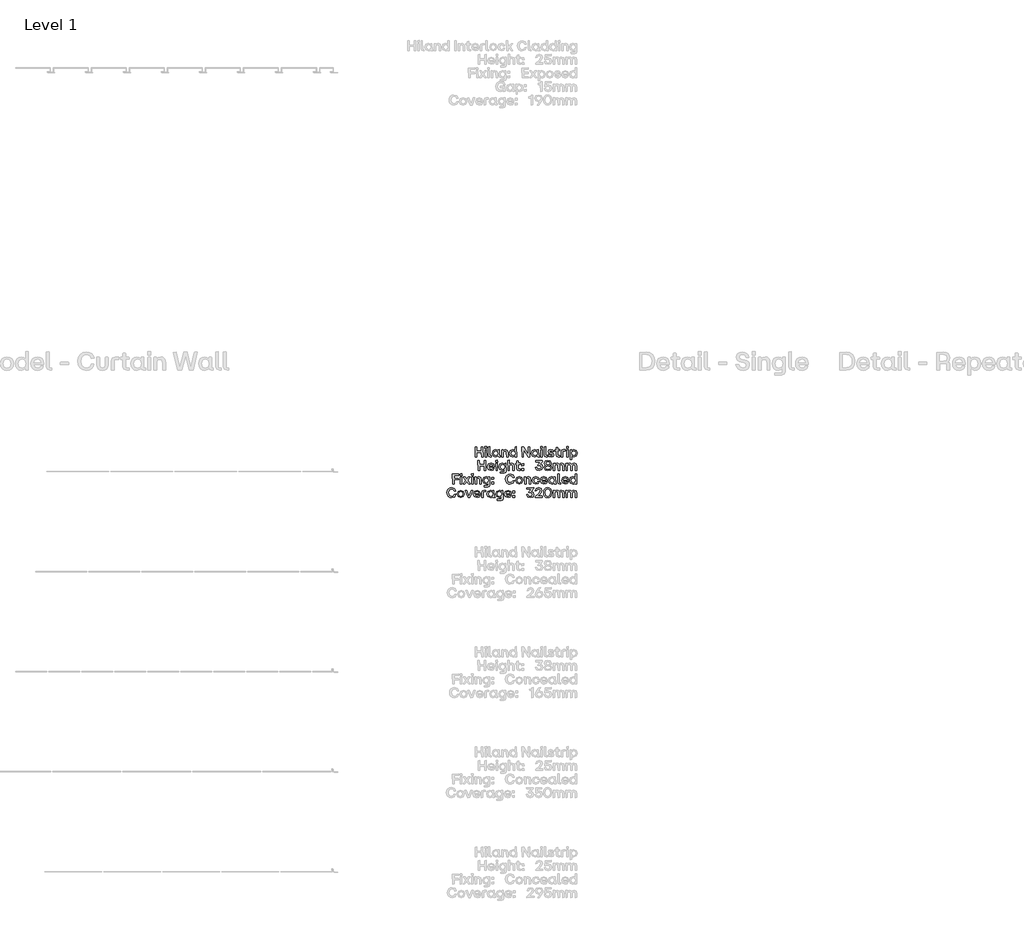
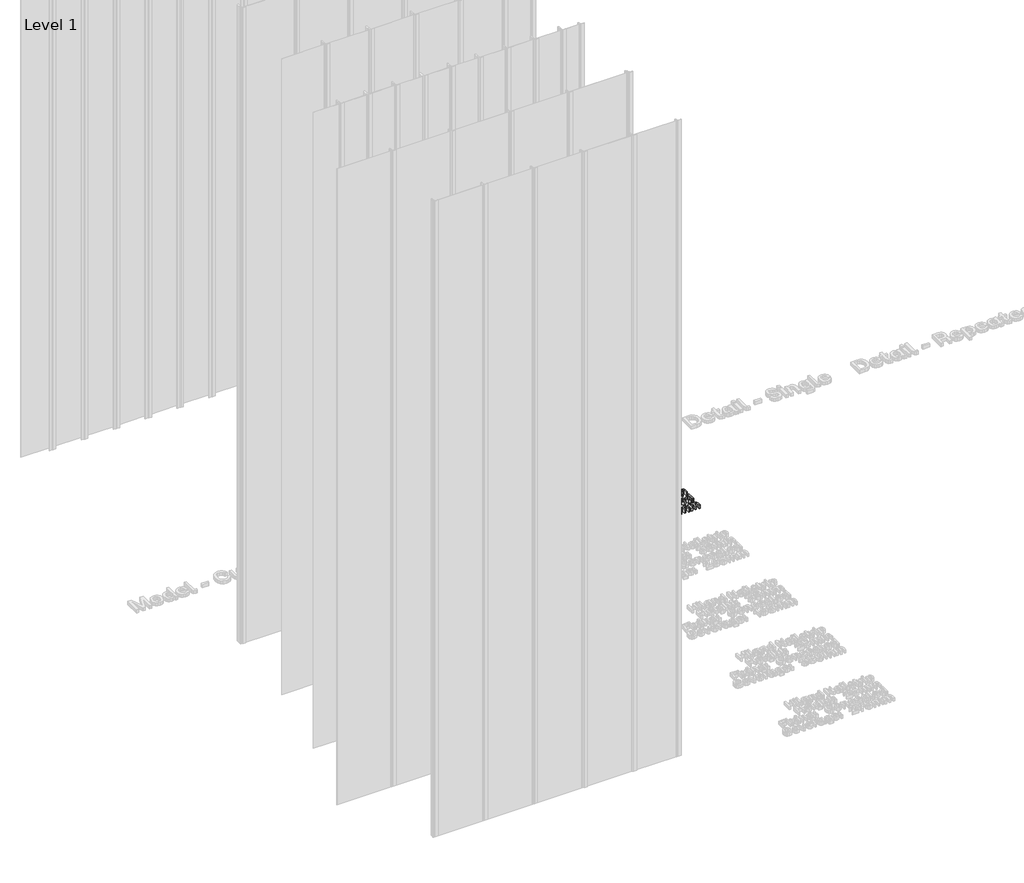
# One storey, part 29 of 64: 1 proxy.
"""IFC4 building model written with IfcOpenShell, lengths in millimetres."""

import ifcopenshell
import ifcopenshell.guid

model = None  # the IFC model being written
_history = None  # IfcOwnerHistory: only IFC2X3 demands one
_inside = {}  # id of a spatial element -> (the spatial element, [elements in it])
_under = {}  # id of a project, library or spatial element -> (it, [spatial elements below it])
_declared = {}  # id of a project -> (the project, [libraries it declares])
_typed = {}  # id of a type object -> (the type object, [elements of that type])
_made_of = {}  # id of a material, layer set ... -> (it, [elements and type objects made of it])


def new_model(schema):
    """Start an empty IFC model of exactly this schema.

    Asked for "IFC4X3", IfcOpenShell would pick the latest addendum, in which some entities
    have other attributes; the version numbers below select the first issue.
    IFC2X3 requires an IfcOwnerHistory on every rooted entity: one is made here for all.
    """
    global model, _history
    if schema == "IFC4X3":
        model = ifcopenshell.file(schema_version=(4, 3, 0, 0))
    else:
        model = ifcopenshell.file(schema=schema)
    _inside.clear()
    _under.clear()
    _declared.clear()
    _typed.clear()
    _made_of.clear()
    _history = None
    if model.schema == "IFC2X3":
        org = make("IfcOrganization", Name="unknown")
        user = make(
            "IfcPersonAndOrganization",
            ThePerson=make("IfcPerson", FamilyName="unknown"),
            TheOrganization=org,
        )
        app = make(
            "IfcApplication",
            ApplicationDeveloper=org,
            Version="unknown",
            ApplicationFullName="unknown",
            ApplicationIdentifier="unknown",
        )
        _history = make(
            "IfcOwnerHistory",
            OwningUser=user,
            OwningApplication=app,
            ChangeAction="ADDED",
            CreationDate=0,
        )
    return model


def make(cls, **values):
    """One entity of the class cls with the attributes given. An attribute that is None is left unset."""
    return model.create_entity(
        cls, **{name: value for name, value in values.items() if value is not None}
    )


def rooted(cls, **values):
    """An entity with a GlobalId (a new one), such as an element, a storey or a relation."""
    return make(cls, GlobalId=ifcopenshell.guid.new(), OwnerHistory=_history, **values)


def si_unit(unit_type, name, prefix=None):
    """IfcSIUnit, for example si_unit("LENGTHUNIT", "METRE", prefix="MILLI")."""
    return make("IfcSIUnit", UnitType=unit_type, Prefix=prefix, Name=name)


def assignment(units):
    """IfcUnitAssignment: the units of a project."""
    return None if units is None else make("IfcUnitAssignment", Units=units)


def point(xyz):
    """IfcCartesianPoint."""
    return None if xyz is None else make("IfcCartesianPoint", Coordinates=xyz)


def direction(xyz):
    """IfcDirection."""
    return None if xyz is None else make("IfcDirection", DirectionRatios=xyz)


def frame(location, z_axis=None, x_axis=None):
    """IfcAxis2Placement3D, a coordinate frame: its origin and axes. An axis left out is left unset."""
    return make(
        "IfcAxis2Placement3D",
        Location=point(location),
        Axis=direction(z_axis),
        RefDirection=direction(x_axis),
    )


def origin():
    """The frame at (0, 0, 0) with its axes left unset."""
    return frame((0.0, 0.0, 0.0))


def origin_with_axes():
    """The frame at (0, 0, 0) with the z axis (0, 0, 1) and the x axis (1, 0, 0) written out."""
    return frame((0.0, 0.0, 0.0), z_axis=(0.0, 0.0, 1.0), x_axis=(1.0, 0.0, 0.0))


def place(relative_to, where):
    """IfcLocalPlacement: puts the frame where relative to a parent placement (None: the world)."""
    return make(
        "IfcLocalPlacement", PlacementRelTo=relative_to, RelativePlacement=where
    )


def context(
    kind, dimensions, precision=None, world=None, true_north=None, identifier=None
):
    """IfcGeometricRepresentationContext, for example the 3D "Model" context."""
    return make(
        "IfcGeometricRepresentationContext",
        ContextIdentifier=identifier,
        ContextType=kind,
        CoordinateSpaceDimension=dimensions,
        Precision=precision,
        WorldCoordinateSystem=world,
        TrueNorth=true_north,
    )


def project(units=None, contexts=None):
    """IfcProject with its units and contexts."""
    return rooted(
        "IfcProject",
        Name="project",
        RepresentationContexts=contexts,
        UnitsInContext=assignment(units),
    )


def spatial(cls, under=None, at=None, **own):
    """A site, building, storey or space (cls), placed at a placement, below another one or the project."""
    s = rooted(cls, ObjectPlacement=at, **own)
    if under is not None:
        _under.setdefault(under.id(), (under, []))[1].append(s)
    return s


def polyline(points):
    """IfcPolyline through the points."""
    return make("IfcPolyline", Points=[point(p) for p in points])


def outline(outer, holes=None, kind="AREA"):
    """IfcArbitraryClosedProfileDef: a profile drawn as a closed curve; with holes, ...WithVoids."""
    if holes is None:
        return make("IfcArbitraryClosedProfileDef", ProfileType=kind, OuterCurve=outer)
    return make(
        "IfcArbitraryProfileDefWithVoids",
        ProfileType=kind,
        OuterCurve=outer,
        InnerCurves=holes,
    )


def extrude(swept, where, along, depth):
    """IfcExtrudedAreaSolid: the profile swept, set in the frame where, extruded along a direction by depth."""
    return make(
        "IfcExtrudedAreaSolid",
        SweptArea=swept,
        Position=where,
        ExtrudedDirection=direction(along),
        Depth=depth,
    )


def shape(context_of_items, identifier, shape_type, items):
    """IfcShapeRepresentation: the items that make up one representation, for example the "Body"."""
    return make(
        "IfcShapeRepresentation",
        ContextOfItems=context_of_items,
        RepresentationIdentifier=identifier,
        RepresentationType=shape_type,
        Items=items,
    )


def made_of(thing, what):
    """Note that an element or type object is made of a material, layer set ...; save() writes the relation."""
    if what is not None:
        _made_of.setdefault(what.id(), (what, []))[1].append(thing)
    return thing


def element(
    cls,
    number,
    at=None,
    inside=None,
    cuts=None,
    type_object=None,
    material=None,
    context=None,
    identifier="Body",
    shape_type=None,
    held_by="IfcProductDefinitionShape",
    body=None,
    shapes=None,
    **own,
):
    """One element of the class cls, such as IfcWall. Its Tag is "e" and its number.

    at: its placement. inside: the storey or other place that contains it. cuts: it is an
    opening in that element (IfcRelVoidsElement). A single representation is given by context,
    identifier, shape_type and body (its items); several are given by shapes. held_by: the class
    of the entity that holds the representations. save() writes the other relations.
    """
    e = rooted(cls, Tag="e%d" % number, ObjectPlacement=at, **own)
    if body is not None:
        shapes = [shape(context, identifier, shape_type, body)]
    if shapes is not None:
        e.Representation = make(held_by, Representations=shapes)
    if inside is not None:
        _inside.setdefault(inside.id(), (inside, []))[1].append(e)
    if cuts is not None:
        rooted(
            "IfcRelVoidsElement", RelatingBuildingElement=cuts, RelatedOpeningElement=e
        )
    if type_object is not None:
        _typed.setdefault(type_object.id(), (type_object, []))[1].append(e)
    return made_of(e, material)


def aggregate(whole, parts):
    """IfcRelAggregates: a whole, such as a stair, and the parts it consists of."""
    return rooted("IfcRelAggregates", RelatingObject=whole, RelatedObjects=parts)


def save(model, path):
    """Write the relations noted so far, then the file.

    IfcRelAggregates (storeys below a building ...), IfcRelContainedInSpatialStructure (elements
    in a storey), IfcRelDefinesByType, IfcRelAssociatesMaterial and IfcRelDeclares: one each for
    every whole, place, type object, material and project.
    """
    for whole, parts in _under.values():
        aggregate(whole, parts)
    for where, things in _inside.values():
        rooted(
            "IfcRelContainedInSpatialStructure",
            RelatedElements=things,
            RelatingStructure=where,
        )
    for kind, things in _typed.values():
        rooted("IfcRelDefinesByType", RelatedObjects=things, RelatingType=kind)
    for what, things in _made_of.values():
        rooted("IfcRelAssociatesMaterial", RelatedObjects=things, RelatingMaterial=what)
    for by, libraries in _declared.values():
        rooted("IfcRelDeclares", RelatingContext=by, RelatedDefinitions=libraries)
    model.write(path)


model = new_model("IFC4")

# Units and contexts
model_context = context("Model", 3, world=origin())
ifc_project = project(units=[si_unit("LENGTHUNIT", "METRE", prefix="MILLI")], contexts=[model_context])

# Site, building, storey
site = spatial("IfcSite", under=ifc_project)
building = spatial("IfcBuilding", under=site)
storey = spatial("IfcBuildingStorey", under=building, Name="Level 1", Elevation=0.0)

# Proxy
placement = place(None, origin())
element("IfcBuildingElementProxy", 1, Name="50mm", ObjectType="50mm", at=placement, inside=storey, context=model_context, shape_type="SweptSolid", body=[
    extrude(outline(polyline([(2520.0683519, -1933.5188866), (2519.3710201, -1911.5808277), (2495.5222721, -1911.5808277), (2495.5222721, -1932.8215548), (2488.0189817, -1933.5188866), (2487.2937566, -1884.2454206), (2494.7831003, -1883.5201955), (2495.5222721, -1904.6075096), (2519.3710201, -1904.6075096), (2519.3710201, -1884.2454206), (2526.8603638, -1883.5201955), (2527.5576956, -1932.8215548), (2520.0683519, -1933.5188866)])), origin_with_axes(), (0.0, 0.0, 1.0), 20.0),
    extrude(outline(polyline([(2537.6550603, -1933.5188866), (2536.9298352, -1897.8154977), (2544.1402462, -1897.1181659), (2544.837578, -1932.8215548), (2537.6550603, -1933.5188866)])), origin_with_axes(), (0.0, 0.0, 1.0), 20.0),
    extrude(outline(polyline([(2536.7206357, -1890.4516737), (2536.3719698, -1882.4044646), (2544.7678448, -1881.6652929), (2545.5070165, -1890.1030078), (2536.7206357, -1890.4516737)])), origin_with_axes(), (0.0, 0.0, 1.0), 20.0),
    extrude(outline(polyline([(2564.2373491, -1933.5188866), (2556.5388058, -1930.8690257), (2553.8889449, -1923.1565359), (2553.8889449, -1882.8228637), (2561.0993559, -1882.083692), (2561.7966877, -1927.2429003), (2568.4631799, -1927.2429003), (2569.1605117, -1932.8215548), (2564.2373491, -1933.5188866)])), origin_with_axes(), (0.0, 0.0, 1.0), 20.0),
    extrude(outline(polyline([(2589.3273478, -1933.9372857), (2577.5563867, -1928.8955767), (2573.1771429, -1915.3882594), (2577.5563867, -1901.7484491), (2589.3273478, -1896.6579269), (2595.9450267, -1898.2617901), (2600.9309491, -1902.6549805), (2601.2517218, -1897.8154977), (2608.4342395, -1897.1181659), (2609.1594646, -1927.2429003), (2613.1063626, -1927.2429003), (2613.8036944, -1932.8215548), (2607.8066408, -1933.5188866), (2603.151951, -1932.2113895), (2601.6003877, -1928.288898), (2596.2448794, -1932.3334225), (2589.3273478, -1933.9372857)]), holes=[polyline([(2581.2382987, -1915.3882594), (2583.9927594, -1924.2792401), (2591.5169696, -1927.521833), (2598.8807936, -1924.2931867), (2601.5306545, -1915.3882594), (2598.8598737, -1906.392679), (2591.5169696, -1903.1152195), (2583.9927594, -1906.392679), (2581.2382987, -1915.3882594)])]), origin_with_axes(), (0.0, 0.0, 1.0), 20.0),
    extrude(outline(polyline([(2620.6654395, -1933.5188866), (2619.9402144, -1897.8154977), (2626.8019595, -1897.1181659), (2627.4992913, -1902.6549805), (2632.6630334, -1898.1571903), (2639.2841989, -1896.6579269), (2648.8446181, -1900.8419178), (2652.1569442, -1913.0870644), (2652.1569442, -1932.8215548), (2644.9325866, -1933.5188866), (2644.2073616, -1913.0870644), (2642.2548325, -1905.7092939), (2636.0834459, -1903.3941522), (2629.8562728, -1905.7441604), (2627.8479572, -1913.0870644), (2627.8479572, -1932.8215548), (2620.6654395, -1933.5188866)])), origin_with_axes(), (0.0, 0.0, 1.0), 20.0),
    extrude(outline(polyline([(2675.0154811, -1933.9372857), (2663.2445201, -1928.8955767), (2658.8652763, -1915.3882594), (2663.2445201, -1901.7484491), (2675.0154811, -1896.6579269), (2681.63316, -1898.2617901), (2686.6190825, -1902.6549805), (2686.9398552, -1882.8228637), (2694.1223728, -1882.083692), (2694.8475979, -1932.8215548), (2687.9858529, -1933.5188866), (2687.2885211, -1928.0099653), (2681.9330127, -1932.3334225), (2675.0154811, -1933.9372857)]), holes=[polyline([(2666.9264321, -1915.3882594), (2669.6808927, -1924.2792401), (2677.205103, -1927.521833), (2684.568927, -1924.2931867), (2687.2187879, -1915.3882594), (2684.548007, -1906.392679), (2677.205103, -1903.1152195), (2669.6808927, -1906.392679), (2666.9264321, -1915.3882594)])]), origin_with_axes(), (0.0, 0.0, 1.0), 20.0),
    extrude(outline(polyline([(2721.8761791, -1933.5188866), (2721.150954, -1884.2454206), (2730.007068, -1883.5201955), (2753.2979506, -1920.7856077), (2753.5768834, -1884.2454206), (2760.7872943, -1883.5201955), (2761.4846261, -1932.8215548), (2752.670352, -1933.5188866), (2729.3794694, -1896.2395278), (2729.1005367, -1932.8215548), (2721.8761791, -1933.5188866)])), origin_with_axes(), (0.0, 0.0, 1.0), 20.0),
    extrude(outline(polyline([(2784.803402, -1933.9372857), (2773.032441, -1928.8955767), (2768.6531972, -1915.3882594), (2773.032441, -1901.7484491), (2784.803402, -1896.6579269), (2791.4210809, -1898.2617901), (2796.4070034, -1902.6549805), (2796.727776, -1897.8154977), (2803.9102937, -1897.1181659), (2804.6355188, -1927.2429003), (2808.5824169, -1927.2429003), (2809.2797487, -1932.8215548), (2803.2826951, -1933.5188866), (2798.6280052, -1932.2113895), (2797.076442, -1928.288898), (2791.7209336, -1932.3334225), (2784.803402, -1933.9372857)]), holes=[polyline([(2776.714353, -1915.3882594), (2779.4688136, -1924.2792401), (2786.9930239, -1927.521833), (2794.3568479, -1924.2931867), (2797.0067088, -1915.3882594), (2794.3359279, -1906.392679), (2786.9930239, -1903.1152195), (2779.4688136, -1906.392679), (2776.714353, -1915.3882594)])]), origin_with_axes(), (0.0, 0.0, 1.0), 20.0),
    extrude(outline(polyline([(2815.2070691, -1890.4516737), (2814.8584032, -1882.4044646), (2823.2542783, -1881.6652929), (2823.99345, -1890.1030078), (2815.2070691, -1890.4516737)])), origin_with_axes(), (0.0, 0.0, 1.0), 20.0),
    extrude(outline(polyline([(2816.1414938, -1933.5188866), (2815.4162687, -1897.8154977), (2822.6266796, -1897.1181659), (2823.3240115, -1932.8215548), (2816.1414938, -1933.5188866)])), origin_with_axes(), (0.0, 0.0, 1.0), 20.0),
    extrude(outline(polyline([(2842.7237825, -1933.5188866), (2835.0252393, -1930.8690257), (2832.3753784, -1923.1565359), (2832.3753784, -1882.8228637), (2839.5857894, -1882.083692), (2840.2831212, -1927.2429003), (2846.9496133, -1927.2429003), (2847.6469451, -1932.8215548), (2842.7237825, -1933.5188866)])), origin_with_axes(), (0.0, 0.0, 1.0), 20.0),
    extrude(outline(polyline([(2867.283809, -1933.9372857), (2856.5518724, -1930.9875721), (2852.0819755, -1922.5289372), (2859.0274004, -1921.7339789), (2862.109607, -1926.5455685), (2867.283809, -1927.8007657), (2871.7467327, -1926.6153017), (2873.420329, -1923.4354686), (2872.2209183, -1920.5764081), (2868.1624471, -1919.0841181), (2863.0719249, -1918.1775867), (2855.3454884, -1914.6351411), (2852.8490405, -1907.5363032), (2856.5100325, -1899.6215871), (2866.3772777, -1896.6579269), (2876.0701899, -1899.4123876), (2880.2960207, -1907.2294772), (2873.3505958, -1908.0244355), (2870.6031085, -1903.8613645), (2866.3772777, -1902.7944469), (2862.1235536, -1903.8962311), (2860.6591568, -1907.0900108), (2861.7051545, -1909.8584181), (2865.5125862, -1911.3716282), (2870.9517744, -1912.3897326), (2878.9641169, -1915.8763917), (2881.2304453, -1923.0170695), (2877.6043199, -1931.1130919), (2867.283809, -1933.9372857)])), origin_with_axes(), (0.0, 0.0, 1.0), 20.0),
    extrude(outline(polyline([(2903.0429845, -1933.5188866), (2895.3304946, -1930.8690257), (2892.6806337, -1923.1565359), (2892.6806337, -1903.3941522), (2886.4743806, -1903.3941522), (2885.7491555, -1897.8154977), (2892.6806337, -1897.1181659), (2892.6806337, -1887.104481), (2899.9049913, -1886.3792559), (2900.6023231, -1897.1181659), (2909.388704, -1897.1181659), (2910.1139291, -1902.6549805), (2900.6023231, -1903.3941522), (2900.6023231, -1927.2429003), (2909.388704, -1927.2429003), (2910.1139291, -1932.8215548), (2903.0429845, -1933.5188866)])), origin_with_axes(), (0.0, 0.0, 1.0), 20.0),
    extrude(outline(polyline([(2917.519593, -1933.5188866), (2916.8222612, -1907.4386768), (2919.4721221, -1899.7471068), (2927.1706653, -1897.1181659), (2937.3238165, -1897.1181659), (2938.0211483, -1903.1152195), (2924.7300039, -1903.8125513), (2924.7300039, -1932.8215548), (2917.519593, -1933.5188866)])), origin_with_axes(), (0.0, 0.0, 1.0), 20.0),
    extrude(outline(polyline([(2945.5662786, -1933.5188866), (2944.8410535, -1897.8154977), (2952.0514644, -1897.1181659), (2952.7487962, -1932.8215548), (2945.5662786, -1933.5188866)])), origin_with_axes(), (0.0, 0.0, 1.0), 20.0),
    extrude(outline(polyline([(2944.6318539, -1890.4516737), (2944.283188, -1882.4044646), (2952.6790631, -1881.6652929), (2953.4182348, -1890.1030078), (2944.6318539, -1890.4516737)])), origin_with_axes(), (0.0, 0.0, 1.0), 20.0),
    extrude(outline(polyline([(2962.5253883, -1947.0750171), (2961.8001632, -1897.8154977), (2968.6619083, -1897.1181659), (2969.3592401, -1902.5852473), (2974.7147484, -1898.2617901), (2981.63228, -1896.6579269), (2993.403241, -1901.7135826), (2997.7824848, -1915.2487931), (2993.403241, -1928.8607101), (2981.63228, -1933.9372857), (2975.0146011, -1932.3334225), (2970.0286786, -1927.9402321), (2969.707906, -1946.3776853), (2962.5253883, -1947.0750171)]), holes=[polyline([(2969.4289732, -1915.2487931), (2972.0997541, -1924.2443735), (2979.4426581, -1927.521833), (2986.9668684, -1924.2443735), (2989.7213291, -1915.2487931), (2986.9668684, -1906.3578124), (2979.4426581, -1903.1152195), (2972.0788341, -1906.3368925), (2969.4289732, -1915.2487931)])]), origin_with_axes(), (0.0, 0.0, 1.0), 20.0),
    extrude(outline(polyline([(2534.3497075, -2001.3705811), (2533.6523757, -1979.4325222), (2509.8036276, -1979.4325222), (2509.8036276, -2000.6732493), (2502.3003373, -2001.3705811), (2501.5751122, -1952.0971151), (2509.0644559, -1951.37189), (2509.8036276, -1972.459204), (2533.6523757, -1972.459204), (2533.6523757, -1952.0971151), (2541.1417194, -1951.37189), (2541.8390512, -2000.6732493), (2534.3497075, -2001.3705811)])), origin_with_axes(), (0.0, 0.0, 1.0), 20.0),
    extrude(outline(polyline([(2567.4869153, -2001.7889802), (2554.0841978, -1996.7472711), (2549.0773554, -1983.2399539), (2554.0632779, -1969.586197), (2567.4869153, -1964.5096214), (2579.7669286, -1969.5164638), (2584.2647188, -1983.1702207), (2584.2647188, -1985.0809099), (2557.2082444, -1985.8200816), (2560.2765044, -1992.8631329), (2567.4869153, -1995.3735275), (2573.2747694, -1994.0974102), (2576.2732962, -1990.520098), (2583.3581874, -1989.9343393), (2578.7000109, -1998.6998002), (2567.4869153, -2001.7889802)]), holes=[polyline([(2557.2779776, -1980.0322275), (2576.4824957, -1980.0322275), (2573.8396081, -1973.3866554), (2567.4869153, -1970.966914), (2560.3950508, -1973.2681089), (2557.2779776, -1980.0322275)])]), origin_with_axes(), (0.0, 0.0, 1.0), 20.0),
    extrude(outline(polyline([(2591.1683037, -1958.3033682), (2590.8196378, -1950.2561591), (2599.2155129, -1949.5169873), (2599.9546846, -1957.9547023), (2591.1683037, -1958.3033682)])), origin_with_axes(), (0.0, 0.0, 1.0), 20.0),
    extrude(outline(polyline([(2592.1027284, -2001.3705811), (2591.3775033, -1965.6671922), (2598.5879142, -1964.9698603), (2599.2852461, -2000.6732493), (2592.1027284, -2001.3705811)])), origin_with_axes(), (0.0, 0.0, 1.0), 20.0),
    extrude(outline(polyline([(2613.7758012, -2014.9267115), (2613.0366294, -2009.348057), (2634.2773565, -2008.6507252), (2634.2773565, -1995.7919266), (2628.9706614, -2000.185117), (2622.3529825, -2001.7889802), (2610.5820215, -1996.7124045), (2606.2027777, -1983.1004875), (2610.5820215, -1969.565277), (2622.3529825, -1964.5096214), (2629.2705141, -1966.1134845), (2634.3470897, -1970.4369418), (2634.6260224, -1965.6671922), (2641.4598742, -1964.9698603), (2642.1850993, -2004.9269733), (2639.6049716, -2012.3675038), (2632.1853611, -2014.9267115), (2613.7758012, -2014.9267115)]), holes=[polyline([(2614.2639334, -1983.1004875), (2617.0183941, -1992.0960679), (2624.5426044, -1995.3735275), (2631.8855084, -1992.0960679), (2634.5562892, -1983.1004875), (2631.9064284, -1974.1885869), (2624.5426044, -1970.966914), (2617.0183941, -1974.2095069), (2614.2639334, -1983.1004875)])]), origin_with_axes(), (0.0, 0.0, 1.0), 20.0),
    extrude(outline(polyline([(2651.9059048, -2001.3705811), (2651.1806797, -1950.6745581), (2658.3910907, -1949.9353864), (2659.0884225, -1970.2277422), (2664.1754581, -1965.9391516), (2670.5246642, -1964.5096214), (2680.0850834, -1968.6936122), (2683.3974095, -1980.9387589), (2683.3974095, -2000.6732493), (2676.1730519, -2001.3705811), (2675.4478269, -1980.9387589), (2673.4952978, -1973.5609883), (2667.3239112, -1971.2458467), (2661.0967381, -1973.5958549), (2659.0884225, -1980.9387589), (2659.0884225, -2000.6732493), (2651.9059048, -2001.3705811)])), origin_with_axes(), (0.0, 0.0, 1.0), 20.0),
    extrude(outline(polyline([(2706.6743455, -2001.3705811), (2698.9618556, -1998.7207202), (2696.3119947, -1991.0082303), (2696.3119947, -1971.2458467), (2690.1057416, -1971.2458467), (2689.3805165, -1965.6671922), (2696.3119947, -1964.9698603), (2696.3119947, -1954.9561755), (2703.5363523, -1954.2309504), (2704.2336842, -1964.9698603), (2713.020065, -1964.9698603), (2713.7452901, -1970.506675), (2704.2336842, -1971.2458467), (2704.2336842, -1995.0945947), (2713.020065, -1995.0945947), (2713.7452901, -2000.6732493), (2706.6743455, -2001.3705811)])), origin_with_axes(), (0.0, 0.0, 1.0), 20.0),
    extrude(outline(polyline([(2721.150954, -1977.7310326), (2720.4536222, -1968.1078535), (2729.9373348, -1967.3686818), (2730.6625599, -1977.0337007), (2721.150954, -1977.7310326)])), origin_with_axes(), (0.0, 0.0, 1.0), 20.0),
    extrude(outline(polyline([(2720.8022881, -2001.0219152), (2720.4536222, -1991.747402), (2729.9373348, -1991.0082303), (2730.6625599, -2000.6732493), (2720.8022881, -2001.0219152)])), origin_with_axes(), (0.0, 0.0, 1.0), 20.0),
    extrude(outline(polyline([(2808.2755909, -2001.7889802), (2794.8798467, -1997.7235357), (2789.0571261, -1985.959548), (2796.42095, -1985.1506431), (2800.584021, -1992.7236666), (2808.2755909, -1994.9551284), (2815.4162687, -1992.5493336), (2818.0661296, -1985.959548), (2815.2977223, -1979.0908296), (2806.6298878, -1976.8942344), (2801.1906997, -1976.8942344), (2800.4933678, -1972.8078699), (2813.8542454, -1958.6520341), (2791.1491215, -1958.3731014), (2790.4238964, -1952.0971151), (2824.1329164, -1951.37189), (2824.8302482, -1956.1834795), (2811.9296096, -1970.0882759), (2822.6545729, -1975.2136647), (2826.2667517, -1985.959548), (2821.4202956, -1997.5352561), (2808.2755909, -2001.7889802)])), origin_with_axes(), (0.0, 0.0, 1.0), 20.0),
    extrude(outline(polyline([(2865.4289064, -1998.1768014), (2851.3846437, -2001.7889802), (2837.3124877, -1998.1768014), (2832.3753784, -1987.8702371), (2834.8509064, -1980.1368273), (2841.5104252, -1975.8063967), (2835.9457173, -1971.1691402), (2834.0908147, -1964.370155), (2838.7768845, -1954.5796163), (2851.3776704, -1950.9534909), (2863.9645096, -1954.5796163), (2868.6366328, -1964.370155), (2866.7817301, -1971.1691402), (2861.2170223, -1975.527464), (2867.8765411, -1980.1368273), (2870.352069, -1987.8702371), (2865.4289064, -1998.1768014)]), holes=[polyline([(2840.5760005, -1986.9358125), (2843.2781613, -1992.9502994), (2851.3846437, -1994.9551284), (2859.4597461, -1992.9502994), (2862.1514469, -1986.9358125), (2859.4597461, -1981.3606446), (2851.3846437, -1979.5022554), (2843.2781613, -1981.3606446), (2840.5760005, -1986.9358125)]), polyline([(2842.3193301, -1965.4579926), (2844.6553917, -1970.8065276), (2851.3846437, -1972.6684036), (2858.1138957, -1970.8065276), (2860.4499573, -1965.4579926), (2858.1138957, -1959.788685), (2851.3846437, -1957.8152359), (2844.6553917, -1959.788685), (2842.3193301, -1965.4579926)])]), origin_with_axes(), (0.0, 0.0, 1.0), 20.0),
    extrude(outline(polyline([(2878.6224244, -2001.3705811), (2877.8971993, -1965.6671922), (2884.7589443, -1964.9698603), (2885.4562761, -1970.506675), (2890.4421986, -1966.0088848), (2896.8925179, -1964.5096214), (2903.1789642, -1966.0088848), (2907.394335, -1970.506675), (2913.2170557, -1966.0646713), (2920.4623332, -1964.5096214), (2929.7368464, -1968.6796656), (2932.9445727, -1980.9387589), (2932.9445727, -2000.6732493), (2925.7341617, -2001.3705811), (2925.0368299, -1980.9387589), (2923.154034, -1973.5609883), (2917.1848737, -1971.2458467), (2911.2784732, -1973.5958549), (2909.3747574, -1980.9387589), (2909.3747574, -2000.6732493), (2902.1643464, -2001.3705811), (2901.4670146, -1980.9387589), (2899.5981653, -1973.5609883), (2893.6847915, -1971.2458467), (2887.7086579, -1973.5958549), (2885.804942, -1980.9387589), (2885.804942, -2000.6732493), (2878.6224244, -2001.3705811)])), origin_with_axes(), (0.0, 0.0, 1.0), 20.0),
    extrude(outline(polyline([(2941.9959397, -2001.3705811), (2941.2707146, -1965.6671922), (2948.1324596, -1964.9698603), (2948.8297914, -1970.506675), (2953.8157139, -1966.0088848), (2960.2660332, -1964.5096214), (2966.5524795, -1966.0088848), (2970.7678503, -1970.506675), (2976.590571, -1966.0646713), (2983.8358485, -1964.5096214), (2993.1103617, -1968.6796656), (2996.318088, -1980.9387589), (2996.318088, -2000.6732493), (2989.1076771, -2001.3705811), (2988.4103452, -1980.9387589), (2986.5275493, -1973.5609883), (2980.558389, -1971.2458467), (2974.6519885, -1973.5958549), (2972.7482727, -1980.9387589), (2972.7482727, -2000.6732493), (2965.5378617, -2001.3705811), (2964.8405299, -1980.9387589), (2962.9716806, -1973.5609883), (2957.0583069, -1971.2458467), (2951.0821732, -1973.5958549), (2949.1784574, -1980.9387589), (2949.1784574, -2000.6732493), (2941.9959397, -2001.3705811)])), origin_with_axes(), (0.0, 0.0, 1.0), 20.0),
    extrude(outline(polyline([(2374.6607219, -2069.2222755), (2373.9354969, -2019.9488095), (2405.5246281, -2019.2235844), (2406.2219599, -2025.527464), (2382.1640123, -2026.2247958), (2382.1640123, -2041.287163), (2404.0881245, -2041.287163), (2404.7854563, -2047.5631494), (2382.1640123, -2048.3023211), (2382.1640123, -2068.5249437), (2374.6607219, -2069.2222755)])), origin_with_axes(), (0.0, 0.0, 1.0), 20.0),
    extrude(outline(polyline([(2414.4783686, -2069.2222755), (2413.7531435, -2033.5188866), (2420.9635544, -2032.8215548), (2421.6608863, -2068.5249437), (2414.4783686, -2069.2222755)])), origin_with_axes(), (0.0, 0.0, 1.0), 20.0),
    extrude(outline(polyline([(2413.5439439, -2026.1550627), (2413.195278, -2018.1078535), (2421.5911531, -2017.3686818), (2422.3303248, -2025.8063967), (2413.5439439, -2026.1550627)])), origin_with_axes(), (0.0, 0.0, 1.0), 20.0),
    extrude(outline(polyline([(2428.5784179, -2069.2222755), (2441.3395901, -2050.7429824), (2429.1362833, -2033.658353), (2437.1277059, -2032.8215548), (2445.9140868, -2044.815662), (2454.1426022, -2033.2399539), (2462.2595445, -2032.8215548), (2450.6559431, -2049.9340775), (2463.696048, -2068.3436374), (2455.7046254, -2069.2222755), (2445.9838199, -2055.7916648), (2436.7093068, -2068.8038764), (2428.5784179, -2069.2222755)])), origin_with_axes(), (0.0, 0.0, 1.0), 20.0),
    extrude(outline(polyline([(2470.7112061, -2069.2222755), (2469.985981, -2033.5188866), (2477.196392, -2032.8215548), (2477.8937238, -2068.5249437), (2470.7112061, -2069.2222755)])), origin_with_axes(), (0.0, 0.0, 1.0), 20.0),
    extrude(outline(polyline([(2469.7767815, -2026.1550627), (2469.4281156, -2018.1078535), (2477.8239906, -2017.3686818), (2478.5631623, -2025.8063967), (2469.7767815, -2026.1550627)])), origin_with_axes(), (0.0, 0.0, 1.0), 20.0),
    extrude(outline(polyline([(2487.6703158, -2069.2222755), (2486.9450907, -2033.5188866), (2493.8068358, -2032.8215548), (2494.5041676, -2038.3583694), (2499.6679097, -2033.8605792), (2506.2890753, -2032.3613158), (2515.8494944, -2036.5453067), (2519.1618206, -2048.7904534), (2519.1618206, -2068.5249437), (2511.937463, -2069.2222755), (2511.2122379, -2048.7904534), (2509.2597088, -2041.4126828), (2503.0883222, -2039.0975411), (2496.8611491, -2041.4475493), (2494.8528335, -2048.7904534), (2494.8528335, -2068.5249437), (2487.6703158, -2069.2222755)])), origin_with_axes(), (0.0, 0.0, 1.0), 20.0),
    extrude(outline(polyline([(2533.4431761, -2082.778406), (2532.7040044, -2077.1997515), (2553.9447315, -2076.5024197), (2553.9447315, -2063.643621), (2548.6380364, -2068.0368114), (2542.0203574, -2069.6406746), (2530.2493964, -2064.564099), (2525.8701526, -2050.952182), (2530.2493964, -2037.4169715), (2542.0203574, -2032.3613158), (2548.9378891, -2033.965179), (2554.0144647, -2038.2886362), (2554.2933974, -2033.5188866), (2561.1272492, -2032.8215548), (2561.8524743, -2072.7786678), (2559.2723465, -2080.2191982), (2551.852736, -2082.778406), (2533.4431761, -2082.778406)]), holes=[polyline([(2533.9313084, -2050.952182), (2536.6857691, -2059.9477624), (2544.2099793, -2063.2252219), (2551.5528834, -2059.9477624), (2554.2236642, -2050.952182), (2551.5738033, -2042.0402814), (2544.2099793, -2038.8186084), (2536.6857691, -2042.0612013), (2533.9313084, -2050.952182)])]), origin_with_axes(), (0.0, 0.0, 1.0), 20.0),
    extrude(outline(polyline([(2571.1967206, -2045.582727), (2570.4993888, -2035.959548), (2579.9831014, -2035.2203762), (2580.7083265, -2044.8853952), (2571.1967206, -2045.582727)])), origin_with_axes(), (0.0, 0.0, 1.0), 20.0),
    extrude(outline(polyline([(2570.8480547, -2068.8736096), (2570.4993888, -2059.5990965), (2579.9831014, -2058.8599248), (2580.7083265, -2068.5249437), (2570.8480547, -2068.8736096)])), origin_with_axes(), (0.0, 0.0, 1.0), 20.0),
    extrude(outline(polyline([(2662.9516407, -2069.6406746), (2652.9449292, -2067.9269817), (2645.2394126, -2062.7859029), (2640.3232234, -2054.7160305), (2638.6844936, -2044.2159567), (2640.33717, -2033.8919591), (2645.2951992, -2025.7924501), (2653.0146624, -2020.5520015), (2662.9516407, -2018.8051853), (2677.1283965, -2023.4215219), (2684.0807947, -2035.7085085), (2676.7588107, -2036.5174134), (2671.5950686, -2028.3272513), (2662.9516407, -2025.8063967), (2651.2922528, -2030.743506), (2647.0524754, -2044.2159567), (2651.2713328, -2057.7999804), (2662.9516407, -2062.6673565), (2671.7659149, -2060.1813685), (2676.4519847, -2052.7234048), (2683.8715952, -2052.0679129), (2677.4073293, -2065.0382846), (2662.9516407, -2069.6406746)])), origin_with_axes(), (0.0, 0.0, 1.0), 20.0),
    extrude(outline(polyline([(2708.306102, -2069.6406746), (2695.1474506, -2064.5152858), (2690.1057416, -2051.0916483), (2695.1613973, -2037.5564378), (2708.306102, -2032.3613158), (2721.5763264, -2037.5564378), (2726.6459287, -2051.0916483), (2721.5763264, -2064.5152858), (2708.306102, -2069.6406746)]), holes=[polyline([(2698.1668974, -2051.0916483), (2700.8655715, -2059.9965756), (2708.306102, -2063.2252219), (2715.8442589, -2059.982629), (2718.5987195, -2051.0916483), (2715.8582055, -2042.0960679), (2708.306102, -2038.8186084), (2700.8655715, -2042.0960679), (2698.1668974, -2051.0916483)])]), origin_with_axes(), (0.0, 0.0, 1.0), 20.0),
    extrude(outline(polyline([(2734.916284, -2069.2222755), (2734.1910589, -2033.5188866), (2741.052804, -2032.8215548), (2741.7501358, -2038.3583694), (2746.9138779, -2033.8605792), (2753.5350435, -2032.3613158), (2763.0954626, -2036.5453067), (2766.4077887, -2048.7904534), (2766.4077887, -2068.5249437), (2759.1834311, -2069.2222755), (2758.4582061, -2048.7904534), (2756.505677, -2041.4126828), (2750.3342904, -2039.0975411), (2744.1071173, -2041.4475493), (2742.0988017, -2048.7904534), (2742.0988017, -2068.5249437), (2734.916284, -2069.2222755)])), origin_with_axes(), (0.0, 0.0, 1.0), 20.0),
    extrude(outline(polyline([(2791.4559475, -2069.6406746), (2778.1229632, -2064.5989656), (2773.1161208, -2051.0916483), (2778.1926964, -2037.5564378), (2791.4559475, -2032.3613158), (2802.5295767, -2035.7991616), (2807.7456187, -2044.8853952), (2800.7304607, -2045.6524602), (2797.1601218, -2040.3527384), (2791.4559475, -2038.8186084), (2783.8968707, -2042.0960679), (2781.1772766, -2051.0916483), (2783.9108173, -2060.0174956), (2791.4559475, -2063.2252219), (2797.3344547, -2061.7608251), (2800.3120616, -2057.0189688), (2807.3969528, -2056.3495302), (2802.7387763, -2066.2028288), (2791.4559475, -2069.6406746)])), origin_with_axes(), (0.0, 0.0, 1.0), 20.0),
    extrude(outline(polyline([(2831.6919932, -2069.6406746), (2818.2892758, -2064.5989656), (2813.2824333, -2051.0916483), (2818.2683558, -2037.4378914), (2831.6919932, -2032.3613158), (2843.9720065, -2037.3681582), (2848.4697967, -2051.0219152), (2848.4697967, -2052.9326043), (2821.4133223, -2053.6717761), (2824.4815823, -2060.7148274), (2831.6919932, -2063.2252219), (2837.4798473, -2061.9491047), (2840.4783741, -2058.3717925), (2847.5632653, -2057.7860338), (2842.9050888, -2066.5514947), (2831.6919932, -2069.6406746)]), holes=[polyline([(2821.4830555, -2047.883922), (2840.6875736, -2047.883922), (2838.0446861, -2041.2383498), (2831.6919932, -2038.8186084), (2824.6001287, -2041.1198034), (2821.4830555, -2047.883922)])]), origin_with_axes(), (0.0, 0.0, 1.0), 20.0),
    extrude(outline(polyline([(2869.5989507, -2069.6406746), (2857.8279896, -2064.5989656), (2853.4487458, -2051.0916483), (2857.8279896, -2037.4518381), (2869.5989507, -2032.3613158), (2876.2166296, -2033.965179), (2881.2025521, -2038.3583694), (2881.5233247, -2033.5188866), (2888.7058424, -2032.8215548), (2889.4310675, -2062.9462892), (2893.3779655, -2062.9462892), (2894.0752974, -2068.5249437), (2888.0782438, -2069.2222755), (2883.4235539, -2067.9147784), (2881.8719906, -2063.9922869), (2876.5164823, -2068.0368114), (2869.5989507, -2069.6406746)]), holes=[polyline([(2861.5099016, -2051.0916483), (2864.2643623, -2059.982629), (2871.7885726, -2063.2252219), (2879.1523965, -2059.9965756), (2881.8022574, -2051.0916483), (2879.1314766, -2042.0960679), (2871.7885726, -2038.8186084), (2864.2643623, -2042.0960679), (2861.5099016, -2051.0916483)])]), origin_with_axes(), (0.0, 0.0, 1.0), 20.0),
    extrude(outline(polyline([(2910.5602215, -2069.2222755), (2902.8616782, -2066.5724146), (2900.2118173, -2058.8599248), (2900.2118173, -2018.5262526), (2907.4222283, -2017.7870809), (2908.1195601, -2062.9462892), (2914.7860523, -2062.9462892), (2915.4833841, -2068.5249437), (2910.5602215, -2069.2222755)])), origin_with_axes(), (0.0, 0.0, 1.0), 20.0),
    extrude(outline(polyline([(2937.9095752, -2069.6406746), (2924.5068578, -2064.5989656), (2919.5000153, -2051.0916483), (2924.4859378, -2037.4378914), (2937.9095752, -2032.3613158), (2950.1895885, -2037.3681582), (2954.6873787, -2051.0219152), (2954.6873787, -2052.9326043), (2927.6309043, -2053.6717761), (2930.6991643, -2060.7148274), (2937.9095752, -2063.2252219), (2943.6974293, -2061.9491047), (2946.6959561, -2058.3717925), (2953.7808473, -2057.7860338), (2949.1226708, -2066.5514947), (2937.9095752, -2069.6406746)]), holes=[polyline([(2927.7006375, -2047.883922), (2946.9051556, -2047.883922), (2944.2622681, -2041.2383498), (2937.9095752, -2038.8186084), (2930.8177107, -2041.1198034), (2927.7006375, -2047.883922)])]), origin_with_axes(), (0.0, 0.0, 1.0), 20.0),
    extrude(outline(polyline([(2975.8165327, -2069.6406746), (2964.0455716, -2064.5989656), (2959.6663278, -2051.0916483), (2964.0455716, -2037.4518381), (2975.8165327, -2032.3613158), (2982.4342116, -2033.965179), (2987.4201341, -2038.3583694), (2987.7409067, -2018.5262526), (2994.9234244, -2017.7870809), (2995.6486495, -2068.5249437), (2988.7869044, -2069.2222755), (2988.0895726, -2063.7133542), (2982.7340643, -2068.0368114), (2975.8165327, -2069.6406746)]), holes=[polyline([(2967.7274836, -2051.0916483), (2970.4819443, -2059.982629), (2978.0061546, -2063.2252219), (2985.3699785, -2059.9965756), (2988.0198394, -2051.0916483), (2985.3490586, -2042.0960679), (2978.0061546, -2038.8186084), (2970.4819443, -2042.0960679), (2967.7274836, -2051.0916483)])]), origin_with_axes(), (0.0, 0.0, 1.0), 20.0),
    extrude(outline(polyline([(2370.1838517, -2137.4923691), (2360.1771402, -2135.7786761), (2352.4716236, -2130.6375973), (2347.5554343, -2122.5677249), (2345.9167046, -2112.0676511), (2347.569381, -2101.7436536), (2352.5274102, -2093.6441446), (2360.2468733, -2088.403696), (2370.1838517, -2086.6568798), (2384.3606075, -2091.2732164), (2391.3130057, -2103.560203), (2383.9910216, -2104.3691079), (2378.8272795, -2096.1789457), (2370.1838517, -2093.6580912), (2358.5244638, -2098.5952004), (2354.2846863, -2112.0676511), (2358.5035438, -2125.6516749), (2370.1838517, -2130.5190509), (2378.9981258, -2128.033063), (2383.6841956, -2120.5750992), (2391.1038061, -2119.9196073), (2384.6395402, -2132.8899791), (2370.1838517, -2137.4923691)])), origin_with_axes(), (0.0, 0.0, 1.0), 20.0),
    extrude(outline(polyline([(2415.5383129, -2137.4923691), (2402.3796616, -2132.3669802), (2397.3379526, -2118.9433428), (2402.3936082, -2105.4081323), (2415.5383129, -2100.2130103), (2428.8085374, -2105.4081323), (2433.8781396, -2118.9433428), (2428.8085374, -2132.3669802), (2415.5383129, -2137.4923691)]), holes=[polyline([(2405.3991083, -2118.9433428), (2408.0977825, -2127.8482701), (2415.5383129, -2131.0769164), (2423.0764698, -2127.8343234), (2425.8309305, -2118.9433428), (2423.0904165, -2109.9477624), (2415.5383129, -2106.6703029), (2408.0977825, -2109.9477624), (2405.3991083, -2118.9433428)])]), origin_with_axes(), (0.0, 0.0, 1.0), 20.0),
    extrude(outline(polyline([(2451.9808735, -2137.07397), (2437.5879449, -2101.5100474), (2444.8401958, -2100.6732493), (2456.2764375, -2130.5887841), (2467.1129739, -2101.2311147), (2474.4767979, -2100.6732493), (2461.3669598, -2136.5161045), (2451.9808735, -2137.07397)])), origin_with_axes(), (0.0, 0.0, 1.0), 20.0),
    extrude(outline(polyline([(2496.9727222, -2137.4923691), (2483.5700048, -2132.45066), (2478.5631623, -2118.9433428), (2483.5490848, -2105.2895859), (2496.9727222, -2100.2130103), (2509.2527355, -2105.2198527), (2513.7505257, -2118.8736096), (2513.7505257, -2120.7842988), (2486.6940513, -2121.5234705), (2489.7623113, -2128.5665218), (2496.9727222, -2131.0769164), (2502.7605763, -2129.8007992), (2505.7591031, -2126.2234869), (2512.8439943, -2125.6377282), (2508.1858178, -2134.4031891), (2496.9727222, -2137.4923691)]), holes=[polyline([(2486.7637845, -2115.7356165), (2505.9683026, -2115.7356165), (2503.3254151, -2109.0900443), (2496.9727222, -2106.6703029), (2489.8808577, -2108.9714978), (2486.7637845, -2115.7356165)])]), origin_with_axes(), (0.0, 0.0, 1.0), 20.0),
    extrude(outline(polyline([(2521.2119761, -2137.07397), (2520.5146443, -2110.9937601), (2523.1645052, -2103.3021902), (2530.8630484, -2100.6732493), (2541.0161996, -2100.6732493), (2541.7135315, -2106.6703029), (2528.4223871, -2107.3676347), (2528.4223871, -2136.3766382), (2521.2119761, -2137.07397)])), origin_with_axes(), (0.0, 0.0, 1.0), 20.0),
    extrude(outline(polyline([(2562.5498061, -2137.4923691), (2550.778845, -2132.45066), (2546.3996012, -2118.9433428), (2550.778845, -2105.3035325), (2562.5498061, -2100.2130103), (2569.167485, -2101.8168734), (2574.1534075, -2106.2100639), (2574.4741801, -2101.3705811), (2581.6566978, -2100.6732493), (2582.3819229, -2130.7979836), (2586.3288209, -2130.7979836), (2587.0261528, -2136.3766382), (2581.0290992, -2137.07397), (2576.3744093, -2135.7664728), (2574.822846, -2131.8439814), (2569.4673377, -2135.8885059), (2562.5498061, -2137.4923691)]), holes=[polyline([(2554.460757, -2118.9433428), (2557.2152177, -2127.8343234), (2564.739428, -2131.0769164), (2572.1032519, -2127.8482701), (2574.7531128, -2118.9433428), (2572.082332, -2109.9477624), (2564.739428, -2106.6703029), (2557.2152177, -2109.9477624), (2554.460757, -2118.9433428)])]), origin_with_axes(), (0.0, 0.0, 1.0), 20.0),
    extrude(outline(polyline([(2598.6018609, -2150.6301005), (2597.8626892, -2145.0514459), (2619.1034162, -2144.3541141), (2619.1034162, -2131.4953155), (2613.7967211, -2135.8885059), (2607.1790422, -2137.4923691), (2595.4080812, -2132.4157935), (2591.0288374, -2118.8038764), (2595.4080812, -2105.2686659), (2607.1790422, -2100.2130103), (2614.0965738, -2101.8168734), (2619.1731494, -2106.1403307), (2619.4520821, -2101.3705811), (2626.2859339, -2100.6732493), (2627.011159, -2140.6303622), (2624.4310313, -2148.0708927), (2617.0114208, -2150.6301005), (2598.6018609, -2150.6301005)]), holes=[polyline([(2599.0899932, -2118.8038764), (2601.8444538, -2127.7994568), (2609.3686641, -2131.0769164), (2616.7115681, -2127.7994568), (2619.382349, -2118.8038764), (2616.7324881, -2109.8919758), (2609.3686641, -2106.6703029), (2601.8444538, -2109.9128958), (2599.0899932, -2118.8038764)])]), origin_with_axes(), (0.0, 0.0, 1.0), 20.0),
    extrude(outline(polyline([(2652.282464, -2137.4923691), (2638.8797465, -2132.45066), (2633.8729041, -2118.9433428), (2638.8588265, -2105.2895859), (2652.282464, -2100.2130103), (2664.5624772, -2105.2198527), (2669.0602674, -2118.8736096), (2669.0602674, -2120.7842988), (2642.003793, -2121.5234705), (2645.072053, -2128.5665218), (2652.282464, -2131.0769164), (2658.070318, -2129.8007992), (2661.0688448, -2126.2234869), (2668.1537361, -2125.6377282), (2663.4955596, -2134.4031891), (2652.282464, -2137.4923691)]), holes=[polyline([(2642.0735262, -2115.7356165), (2661.2780444, -2115.7356165), (2658.6351568, -2109.0900443), (2652.282464, -2106.6703029), (2645.1905994, -2108.9714978), (2642.0735262, -2115.7356165)])]), origin_with_axes(), (0.0, 0.0, 1.0), 20.0),
    extrude(outline(polyline([(2676.5217178, -2113.4344215), (2675.824386, -2103.8112424), (2685.3080987, -2103.0720707), (2686.0333238, -2112.7370896), (2676.5217178, -2113.4344215)])), origin_with_axes(), (0.0, 0.0, 1.0), 20.0),
    extrude(outline(polyline([(2676.1730519, -2136.7253041), (2675.824386, -2127.4507909), (2685.3080987, -2126.7116192), (2686.0333238, -2136.3766382), (2676.1730519, -2136.7253041)])), origin_with_axes(), (0.0, 0.0, 1.0), 20.0),
    extrude(outline(polyline([(2763.6463548, -2137.4923691), (2750.2506106, -2133.4269246), (2744.42789, -2121.6629369), (2751.7917139, -2120.854032), (2755.9547848, -2128.4270555), (2763.6463548, -2130.6585173), (2770.7870325, -2128.2527225), (2773.4368934, -2121.6629369), (2770.6684861, -2114.7942185), (2762.0006517, -2112.5976233), (2756.5614635, -2112.5976233), (2755.8641317, -2108.5112589), (2769.2250093, -2094.355423), (2746.5198854, -2094.0764903), (2745.7946603, -2087.800504), (2779.5036802, -2087.0752789), (2780.201012, -2091.8868684), (2767.3003735, -2105.7916648), (2778.0253368, -2110.9170536), (2781.6375156, -2121.6629369), (2776.7910595, -2133.238645), (2763.6463548, -2137.4923691)])), origin_with_axes(), (0.0, 0.0, 1.0), 20.0),
    extrude(outline(polyline([(2787.7461423, -2137.07397), (2787.0209172, -2132.2902737), (2804.3844794, -2116.2934819), (2811.5321305, -2108.3787658), (2813.5195261, -2101.0916483), (2811.5391038, -2095.4118807), (2805.5978367, -2093.5186248), (2798.7291184, -2095.5966736), (2795.8770312, -2102.1655393), (2788.4434741, -2102.8628712), (2793.0319174, -2090.6665377), (2805.5978367, -2086.6568798), (2817.4245843, -2090.5270714), (2821.7480416, -2101.0916483), (2819.0633141, -2110.8682404), (2809.8934007, -2121.2724311), (2800.4375813, -2129.7798792), (2823.1705985, -2130.0588119), (2823.8679303, -2136.3766382), (2787.7461423, -2137.07397)])), origin_with_axes(), (0.0, 0.0, 1.0), 20.0),
    extrude(outline(polyline([(2850.1294464, -2137.4923691), (2841.2123158, -2135.8919926), (2834.8230131, -2131.090863), (2830.9789714, -2123.134307), (2829.6976242, -2112.0676511), (2830.9789714, -2101.0027385), (2834.8230131, -2093.0514125), (2841.2123158, -2088.255513), (2850.1294464, -2086.6568798), (2858.9907904, -2088.255513), (2865.3521999, -2093.0514125), (2869.1857816, -2101.0027385), (2870.4636421, -2112.0676511), (2869.1857816, -2123.134307), (2865.3521999, -2131.090863), (2858.9907904, -2135.8919926), (2850.1294464, -2137.4923691)]), holes=[polyline([(2840.9107198, -2097.9815485), (2838.065606, -2112.0676511), (2840.9107198, -2126.1746737), (2850.1294464, -2130.5190509), (2859.2644932, -2126.1258605), (2862.1235536, -2112.0746244), (2859.2644932, -2098.037335), (2850.1294464, -2093.6580912), (2840.9107198, -2097.9815485)])]), origin_with_axes(), (0.0, 0.0, 1.0), 20.0),
    extrude(outline(polyline([(2878.6224244, -2137.07397), (2877.8971993, -2101.3705811), (2884.7589443, -2100.6732493), (2885.4562761, -2106.2100639), (2890.4421986, -2101.7122737), (2896.8925179, -2100.2130103), (2903.1789642, -2101.7122737), (2907.394335, -2106.2100639), (2913.2170557, -2101.7680602), (2920.4623332, -2100.2130103), (2929.7368464, -2104.3830545), (2932.9445727, -2116.6421478), (2932.9445727, -2136.3766382), (2925.7341617, -2137.07397), (2925.0368299, -2116.6421478), (2923.154034, -2109.2643772), (2917.1848737, -2106.9492356), (2911.2784732, -2109.2992438), (2909.3747574, -2116.6421478), (2909.3747574, -2136.3766382), (2902.1643464, -2137.07397), (2901.4670146, -2116.6421478), (2899.5981653, -2109.2643772), (2893.6847915, -2106.9492356), (2887.7086579, -2109.2992438), (2885.804942, -2116.6421478), (2885.804942, -2136.3766382), (2878.6224244, -2137.07397)])), origin_with_axes(), (0.0, 0.0, 1.0), 20.0),
    extrude(outline(polyline([(2941.9959397, -2137.07397), (2941.2707146, -2101.3705811), (2948.1324596, -2100.6732493), (2948.8297914, -2106.2100639), (2953.8157139, -2101.7122737), (2960.2660332, -2100.2130103), (2966.5524795, -2101.7122737), (2970.7678503, -2106.2100639), (2976.590571, -2101.7680602), (2983.8358485, -2100.2130103), (2993.1103617, -2104.3830545), (2996.318088, -2116.6421478), (2996.318088, -2136.3766382), (2989.1076771, -2137.07397), (2988.4103452, -2116.6421478), (2986.5275493, -2109.2643772), (2980.558389, -2106.9492356), (2974.6519885, -2109.2992438), (2972.7482727, -2116.6421478), (2972.7482727, -2136.3766382), (2965.5378617, -2137.07397), (2964.8405299, -2116.6421478), (2962.9716806, -2109.2643772), (2957.0583069, -2106.9492356), (2951.0821732, -2109.2992438), (2949.1784574, -2116.6421478), (2949.1784574, -2136.3766382), (2941.9959397, -2137.07397)])), origin_with_axes(), (0.0, 0.0, 1.0), 20.0),
])

save(model, "model.ifc")
